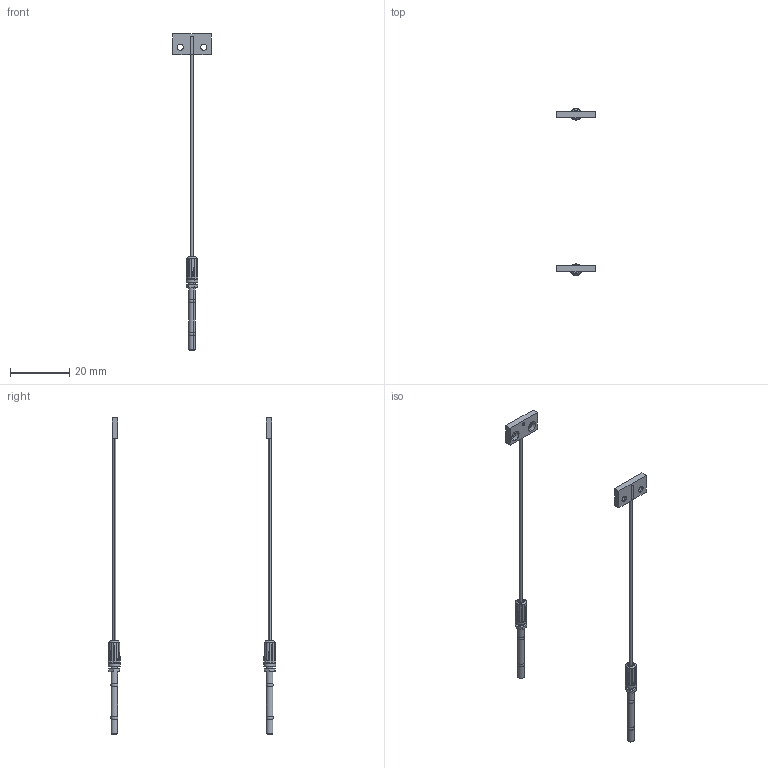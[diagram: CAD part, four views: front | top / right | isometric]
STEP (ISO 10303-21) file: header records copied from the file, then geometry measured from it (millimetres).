
FILE_DESCRIPTION (( 'STEP AP214' ), '1' );
FILE_NAME ('FTF-210-5R.STEP', '2019-06-18T02:25:45', ( '' ), ( '' ), 'SwSTEP 2.0', 'SolidWorks 2018', '' );
FILE_SCHEMA (( 'AUTOMOTIVE_DESIGN' ));
Length unit declared in the file: millimetre
Products named in the file (1): FTF-210-5R
Bounding box: 13 x 56.49 x 106.78 mm (x, y, z)
Volume: 769.9 mm3; surface area: 1643.6 mm2
Topology: 2 solids, 2 shells, 220 faces, 512 edges, 316 vertices
Faces by surface type: plane 126, cylinder 74, torus 12, cone 8
Entity records: 6837 total; most frequent: CARTESIAN_POINT 1337, DIRECTION 1054, ORIENTED_EDGE 1024, EDGE_CURVE 512, AXIS2_PLACEMENT_3D 417, VERTEX_POINT 316, EDGE_LOOP 248, FACE_OUTER_BOUND 220
